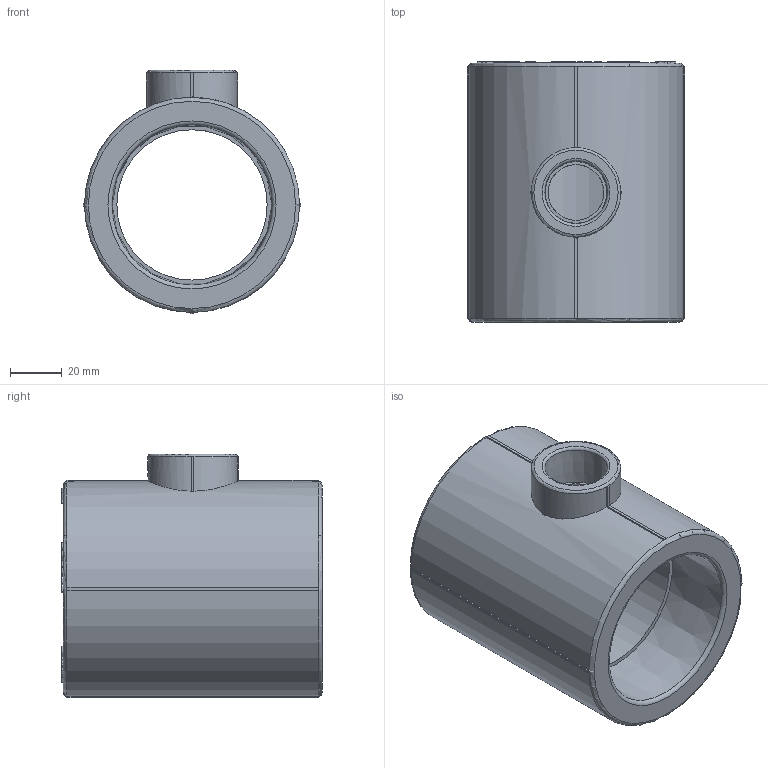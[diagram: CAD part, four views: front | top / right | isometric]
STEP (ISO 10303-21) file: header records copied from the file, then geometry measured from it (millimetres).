
FILE_DESCRIPTION(('STEP AP203'), '1');
FILE_NAME('ÂÐ.752241.068 - VTp.735.0.063025063', '', ('UNSPECIFIED'), ('UNSPECIFIED'), 'C3D Converter', 'C3D Toolkit', '');
FILE_SCHEMA(('CONFIG_CONTROL_DESIGN'));
Length unit declared in the file: millimetre
Products named in the file (1): ВР.752241.068
Bounding box: 84 x 100.5 x 94 mm (x, y, z)
Volume: 258083 mm3; surface area: 52661.5 mm2
Topology: 1 solids, 1 shells, 1134 faces, 3188 edges, 2117 vertices
Faces by surface type: extrusion 671, plane 419, cylinder 35, torus 6, cone 3
Full cylindrical faces by diameter (mm): 6 x1, 21.5 x1, 58 x1
Entity records: 41922 total; most frequent: CARTESIAN_POINT 16134, ORIENTED_EDGE 6352, DIRECTION 3181, EDGE_CURVE 3176, VECTOR 2163, VERTEX_POINT 2117, B_SPLINE_CURVE_WITH_KNOTS 2019, LINE 1492
